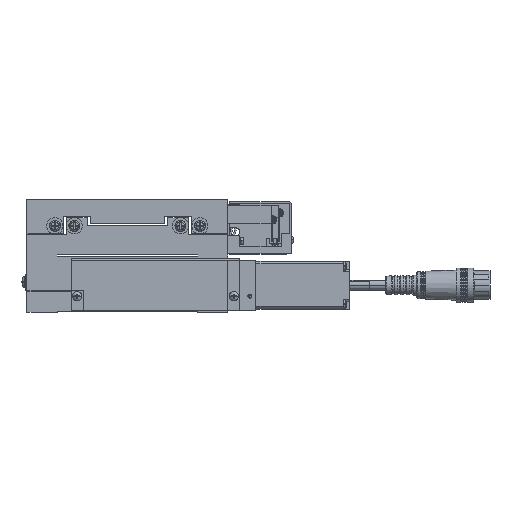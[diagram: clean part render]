
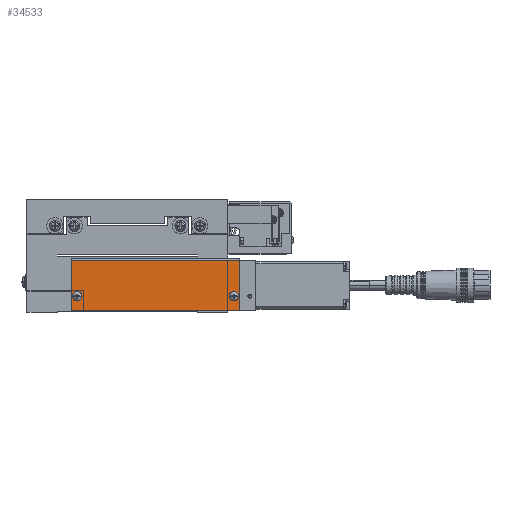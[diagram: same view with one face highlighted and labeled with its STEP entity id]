
A CAD part, front view. The second image highlights one B-rep face of the part: STEP entity #34533.
In plain terms, the highlighted planar face has unit normal (0, -1, 0) as drawn and (0, 1, 0) by its records, which use the part's own axes.
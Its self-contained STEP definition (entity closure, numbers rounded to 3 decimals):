
#270 = VECTOR ( 'NONE', #66128, 1000. ) ;
#1446 = DIRECTION ( 'NONE',  ( -1., 0., 0. ) ) ;
#2645 = DIRECTION ( 'NONE',  ( -1., 0., 0. ) ) ;
#2655 = LINE ( 'NONE', #96409, #270 ) ;
#6832 = CARTESIAN_POINT ( 'NONE',  ( -150.07, 159.441, -125.799 ) ) ;
#7216 = VERTEX_POINT ( 'NONE', #42079 ) ;
#9258 = CARTESIAN_POINT ( 'NONE',  ( -69.82, 159.441, -125.799 ) ) ;
#10032 = LINE ( 'NONE', #92830, #35382 ) ;
#10235 = VERTEX_POINT ( 'NONE', #98343 ) ;
#10546 = EDGE_CURVE ( 'NONE', #23662, #7216, #34939, .T. ) ;
#13810 = CIRCLE ( 'NONE', #86068, 2.25 ) ;
#14072 = VERTEX_POINT ( 'NONE', #76591 ) ;
#17351 = EDGE_CURVE ( 'NONE', #43883, #25846, #41523, .T. ) ;
#17405 = AXIS2_PLACEMENT_3D ( 'NONE', #89937, #81540, #65683 ) ;
#17895 = CIRCLE ( 'NONE', #49252, 2.25 ) ;
#18086 = VECTOR ( 'NONE', #30185, 1000. ) ;
#21536 = ORIENTED_EDGE ( 'NONE', *, *, #53186, .F. ) ;
#22658 = FACE_OUTER_BOUND ( 'NONE', #62286, .T. ) ;
#23662 = VERTEX_POINT ( 'NONE', #83002 ) ;
#23729 = ORIENTED_EDGE ( 'NONE', *, *, #17351, .F. ) ;
#23834 = ORIENTED_EDGE ( 'NONE', *, *, #96964, .F. ) ;
#25112 = FACE_BOUND ( 'NONE', #36077, .T. ) ;
#25454 = CARTESIAN_POINT ( 'NONE',  ( -150.82, 159.441, -132.799 ) ) ;
#25846 = VERTEX_POINT ( 'NONE', #6832 ) ;
#26952 = EDGE_CURVE ( 'NONE', #7216, #10235, #60337, .T. ) ;
#27650 = PLANE ( 'NONE',  #17405 ) ;
#27798 = ORIENTED_EDGE ( 'NONE', *, *, #98429, .F. ) ;
#27970 = EDGE_CURVE ( 'NONE', #25846, #43883, #17895, .T. ) ;
#30065 = CARTESIAN_POINT ( 'NONE',  ( -145.57, 159.441, -125.799 ) ) ;
#30185 = DIRECTION ( 'NONE',  ( 0., 0., -1. ) ) ;
#31436 = EDGE_CURVE ( 'NONE', #10235, #48994, #10032, .T. ) ;
#33627 = CARTESIAN_POINT ( 'NONE',  ( -147.82, 159.441, -125.799 ) ) ;
#34533 = ADVANCED_FACE ( 'NONE', ( #25112, #70872, #22658 ), #27650, .T. ) ;
#34889 = CARTESIAN_POINT ( 'NONE',  ( -147.82, 159.441, -125.799 ) ) ;
#34939 = LINE ( 'NONE', #96236, #55471 ) ;
#35382 = VECTOR ( 'NONE', #86770, 1000. ) ;
#35814 = VERTEX_POINT ( 'NONE', #92595 ) ;
#36077 = EDGE_LOOP ( 'NONE', ( #27798, #23834 ) ) ;
#36182 = ORIENTED_EDGE ( 'NONE', *, *, #26952, .T. ) ;
#41523 = CIRCLE ( 'NONE', #99197, 2.25 ) ;
#41930 = ORIENTED_EDGE ( 'NONE', *, *, #10546, .T. ) ;
#42079 = CARTESIAN_POINT ( 'NONE',  ( -66.82, 159.441, -107.799 ) ) ;
#42223 = EDGE_LOOP ( 'NONE', ( #86230, #23729 ) ) ;
#43883 = VERTEX_POINT ( 'NONE', #30065 ) ;
#47594 = DIRECTION ( 'NONE',  ( 0., 1., 0. ) ) ;
#48007 = DIRECTION ( 'NONE',  ( -1., 0., 0. ) ) ;
#48994 = VERTEX_POINT ( 'NONE', #25454 ) ;
#49165 = DIRECTION ( 'NONE',  ( 1., 0., 0. ) ) ;
#49252 = AXIS2_PLACEMENT_3D ( 'NONE', #33627, #94563, #2645 ) ;
#50081 = DIRECTION ( 'NONE',  ( -1., 0., 0. ) ) ;
#53186 = EDGE_CURVE ( 'NONE', #23662, #48994, #2655, .T. ) ;
#55471 = VECTOR ( 'NONE', #49165, 1000. ) ;
#60337 = LINE ( 'NONE', #76662, #18086 ) ;
#62286 = EDGE_LOOP ( 'NONE', ( #21536, #41930, #36182, #90171 ) ) ;
#63179 = DIRECTION ( 'NONE',  ( 0., 1., 0. ) ) ;
#65683 = DIRECTION ( 'NONE',  ( 0., 0., -1. ) ) ;
#66128 = DIRECTION ( 'NONE',  ( 0., 0., -1. ) ) ;
#70872 = FACE_BOUND ( 'NONE', #42223, .T. ) ;
#73649 = DIRECTION ( 'NONE',  ( 0., 1., 0. ) ) ;
#76591 = CARTESIAN_POINT ( 'NONE',  ( -72.07, 159.441, -125.799 ) ) ;
#76662 = CARTESIAN_POINT ( 'NONE',  ( -66.82, 159.441, -106.799 ) ) ;
#77820 = AXIS2_PLACEMENT_3D ( 'NONE', #78259, #47594, #1446 ) ;
#78259 = CARTESIAN_POINT ( 'NONE',  ( -69.82, 159.441, -125.799 ) ) ;
#81540 = DIRECTION ( 'NONE',  ( 0., 1., 0. ) ) ;
#83002 = CARTESIAN_POINT ( 'NONE',  ( -150.82, 159.441, -107.799 ) ) ;
#86068 = AXIS2_PLACEMENT_3D ( 'NONE', #9258, #63179, #48007 ) ;
#86230 = ORIENTED_EDGE ( 'NONE', *, *, #27970, .F. ) ;
#86770 = DIRECTION ( 'NONE',  ( -1., 0., 0. ) ) ;
#87138 = CIRCLE ( 'NONE', #77820, 2.25 ) ;
#89937 = CARTESIAN_POINT ( 'NONE',  ( -66.82, 159.441, -106.799 ) ) ;
#90171 = ORIENTED_EDGE ( 'NONE', *, *, #31436, .T. ) ;
#92595 = CARTESIAN_POINT ( 'NONE',  ( -67.57, 159.441, -125.799 ) ) ;
#92830 = CARTESIAN_POINT ( 'NONE',  ( -66.82, 159.441, -132.799 ) ) ;
#94563 = DIRECTION ( 'NONE',  ( 0., 1., 0. ) ) ;
#96236 = CARTESIAN_POINT ( 'NONE',  ( -66.82, 159.441, -107.799 ) ) ;
#96409 = CARTESIAN_POINT ( 'NONE',  ( -150.82, 159.441, -106.799 ) ) ;
#96964 = EDGE_CURVE ( 'NONE', #35814, #14072, #13810, .T. ) ;
#98343 = CARTESIAN_POINT ( 'NONE',  ( -66.82, 159.441, -132.799 ) ) ;
#98429 = EDGE_CURVE ( 'NONE', #14072, #35814, #87138, .T. ) ;
#99197 = AXIS2_PLACEMENT_3D ( 'NONE', #34889, #73649, #50081 ) ;
